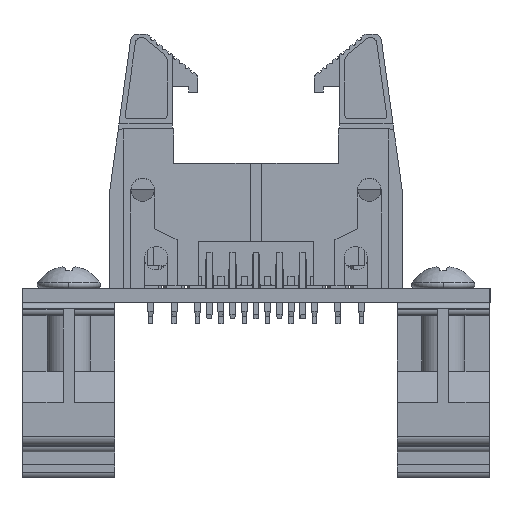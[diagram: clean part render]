
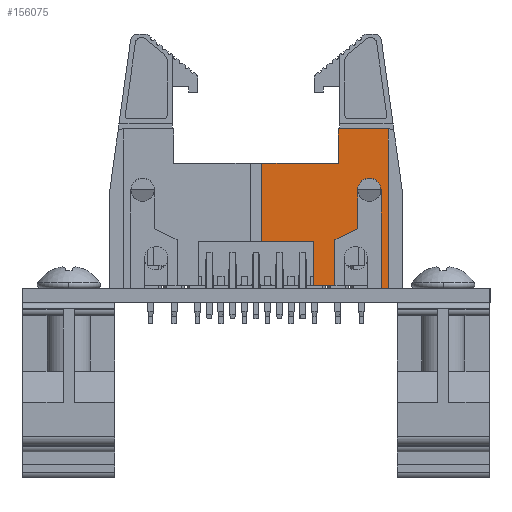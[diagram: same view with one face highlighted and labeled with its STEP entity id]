
A CAD part, left-side view. The second image highlights one B-rep face of the part: STEP entity #156075.
In plain terms, the highlighted planar face has unit normal (-1, 0, 0) as drawn and (0, -1, 0) by its records, which use the part's own axes.
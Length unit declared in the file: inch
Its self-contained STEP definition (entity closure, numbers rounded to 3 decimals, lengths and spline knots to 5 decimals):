
#2405 = DIRECTION ( 'NONE',  ( 0.899, 0., 0.438 ) ) ;
#5420 = DIRECTION ( 'NONE',  ( 0., -1., 0. ) ) ;
#6773 = DIRECTION ( 'NONE',  ( 0., 0., 1. ) ) ;
#7872 = VERTEX_POINT ( 'NONE', #68327 ) ;
#8047 = VERTEX_POINT ( 'NONE', #185740 ) ;
#8978 = VERTEX_POINT ( 'NONE', #96373 ) ;
#9741 = VERTEX_POINT ( 'NONE', #53416 ) ;
#10768 = CARTESIAN_POINT ( 'NONE',  ( -0.53425, -0.15748, 0. ) ) ;
#11403 = DIRECTION ( 'NONE',  ( 0., 0., 1. ) ) ;
#13003 = AXIS2_PLACEMENT_3D ( 'NONE', #80421, #97122, #11403 ) ;
#13088 = EDGE_CURVE ( 'NONE', #221510, #45523, #211973, .T. ) ;
#25902 = CIRCLE ( 'NONE', #132756, 0.05 ) ;
#27781 = LINE ( 'NONE', #47961, #109231 ) ;
#29120 = CARTESIAN_POINT ( 'NONE',  ( -0.24606, -0.15748, -0.18898 ) ) ;
#36196 = LINE ( 'NONE', #215650, #180229 ) ;
#36593 = EDGE_CURVE ( 'NONE', #75964, #121569, #101867, .T. ) ;
#39319 = DIRECTION ( 'NONE',  ( 0., 0., 1. ) ) ;
#39373 = ORIENTED_EDGE ( 'NONE', *, *, #180999, .T. ) ;
#40513 = EDGE_CURVE ( 'NONE', #45523, #8047, #25902, .T. ) ;
#43444 = ORIENTED_EDGE ( 'NONE', *, *, #40513, .F. ) ;
#44669 = LINE ( 'NONE', #160035, #131473 ) ;
#45523 = VERTEX_POINT ( 'NONE', #151100 ) ;
#45674 = CARTESIAN_POINT ( 'NONE',  ( -0.35236, -0.15748, 0. ) ) ;
#47961 = CARTESIAN_POINT ( 'NONE',  ( 0., -0.15748, -0.18898 ) ) ;
#48474 = CARTESIAN_POINT ( 'NONE',  ( -0.53425, -0.15748, 0.01181 ) ) ;
#51281 = VECTOR ( 'NONE', #184020, 39.37008 ) ;
#53416 = CARTESIAN_POINT ( 'NONE',  ( -0.56496, -0.15748, -0.66969 ) ) ;
#53652 = CARTESIAN_POINT ( 'NONE',  ( 0., -0.15748, -0.52362 ) ) ;
#54314 = ORIENTED_EDGE ( 'NONE', *, *, #201904, .F. ) ;
#55025 = EDGE_CURVE ( 'NONE', #121569, #123124, #144567, .T. ) ;
#56217 = LINE ( 'NONE', #159220, #121226 ) ;
#57313 = CARTESIAN_POINT ( 'NONE',  ( -0.35236, -0.15748, -0.66969 ) ) ;
#57695 = CARTESIAN_POINT ( 'NONE',  ( -0.43425, -0.15748, 0. ) ) ;
#58864 = EDGE_CURVE ( 'NONE', #155076, #221510, #36196, .T. ) ;
#60074 = CARTESIAN_POINT ( 'NONE',  ( -0.35236, -0.15748, -0.52362 ) ) ;
#60382 = CARTESIAN_POINT ( 'NONE',  ( -0.0252, -0.15748, -0.18898 ) ) ;
#60544 = EDGE_CURVE ( 'NONE', #144538, #139131, #143557, .T. ) ;
#65960 = CARTESIAN_POINT ( 'NONE',  ( -0.0252, -0.15748, -0.52362 ) ) ;
#68063 = DIRECTION ( 'NONE',  ( -1., 0., 0. ) ) ;
#68327 = CARTESIAN_POINT ( 'NONE',  ( -0.43425, -0.15748, -0.24409 ) ) ;
#69610 = ORIENTED_EDGE ( 'NONE', *, *, #58864, .F. ) ;
#71017 = ORIENTED_EDGE ( 'NONE', *, *, #36593, .F. ) ;
#75964 = VERTEX_POINT ( 'NONE', #60382 ) ;
#76054 = VERTEX_POINT ( 'NONE', #29120 ) ;
#76963 = ORIENTED_EDGE ( 'NONE', *, *, #109135, .F. ) ;
#78807 = VECTOR ( 'NONE', #79047, 39.37008 ) ;
#79047 = DIRECTION ( 'NONE',  ( 0., 0., -1. ) ) ;
#79837 = EDGE_CURVE ( 'NONE', #123124, #177098, #183913, .T. ) ;
#80421 = CARTESIAN_POINT ( 'NONE',  ( 0., -0.15748, 0. ) ) ;
#82809 = EDGE_CURVE ( 'NONE', #76054, #75964, #27781, .T. ) ;
#87134 = ORIENTED_EDGE ( 'NONE', *, *, #108487, .F. ) ;
#96373 = CARTESIAN_POINT ( 'NONE',  ( -0.3374, -0.15748, -0.19685 ) ) ;
#97122 = DIRECTION ( 'NONE',  ( 0., 1., 0. ) ) ;
#101867 = LINE ( 'NONE', #202022, #210623 ) ;
#103151 = CARTESIAN_POINT ( 'NONE',  ( -0.62795, -0.15748, 0. ) ) ;
#106720 = CARTESIAN_POINT ( 'NONE',  ( -0.24606, -0.15748, 0. ) ) ;
#108487 = EDGE_CURVE ( 'NONE', #8978, #144538, #205772, .T. ) ;
#109135 = EDGE_CURVE ( 'NONE', #177098, #9741, #56217, .T. ) ;
#109231 = VECTOR ( 'NONE', #152573, 39.37008 ) ;
#121226 = VECTOR ( 'NONE', #211597, 39.37008 ) ;
#121569 = VERTEX_POINT ( 'NONE', #65960 ) ;
#123124 = VERTEX_POINT ( 'NONE', #60074 ) ;
#124666 = VECTOR ( 'NONE', #223936, 39.37008 ) ;
#125844 = ORIENTED_EDGE ( 'NONE', *, *, #13088, .F. ) ;
#126775 = DIRECTION ( 'NONE',  ( 0., 0., 1. ) ) ;
#127541 = VECTOR ( 'NONE', #2405, 39.37008 ) ;
#129357 = ORIENTED_EDGE ( 'NONE', *, *, #188672, .F. ) ;
#130111 = CARTESIAN_POINT ( 'NONE',  ( -0.24606, -0.15748, 0. ) ) ;
#131473 = VECTOR ( 'NONE', #39319, 39.37008 ) ;
#132243 = CARTESIAN_POINT ( 'NONE',  ( -0.56496, -0.15748, 0.01181 ) ) ;
#132756 = AXIS2_PLACEMENT_3D ( 'NONE', #145672, #5420, #126775 ) ;
#133244 = VECTOR ( 'NONE', #6773, 39.37008 ) ;
#139131 = VERTEX_POINT ( 'NONE', #106720 ) ;
#141159 = CARTESIAN_POINT ( 'NONE',  ( -0.43425, -0.15748, -0.24409 ) ) ;
#143269 = ORIENTED_EDGE ( 'NONE', *, *, #155313, .F. ) ;
#143557 = LINE ( 'NONE', #103151, #124666 ) ;
#144538 = VERTEX_POINT ( 'NONE', #201923 ) ;
#144567 = LINE ( 'NONE', #53652, #152618 ) ;
#145672 = CARTESIAN_POINT ( 'NONE',  ( -0.48425, -0.15748, -0.40945 ) ) ;
#147380 = ORIENTED_EDGE ( 'NONE', *, *, #82809, .F. ) ;
#151100 = CARTESIAN_POINT ( 'NONE',  ( -0.53425, -0.15748, -0.40945 ) ) ;
#152573 = DIRECTION ( 'NONE',  ( 1., 0., 0. ) ) ;
#152618 = VECTOR ( 'NONE', #68063, 39.37008 ) ;
#155076 = VERTEX_POINT ( 'NONE', #132243 ) ;
#155313 = EDGE_CURVE ( 'NONE', #9741, #155076, #44669, .T. ) ;
#156075 = ADVANCED_FACE ( 'NONE', ( #212410 ), #201173, .F. ) ;
#159220 = CARTESIAN_POINT ( 'NONE',  ( 0., -0.15748, -0.66969 ) ) ;
#160035 = CARTESIAN_POINT ( 'NONE',  ( -0.56496, -0.15748, 0. ) ) ;
#162523 = LINE ( 'NONE', #130111, #51281 ) ;
#163482 = EDGE_LOOP ( 'NONE', ( #194949, #71017, #147380, #39373, #205847, #87134, #129357, #54314, #43444, #125844, #69610, #143269, #76963, #180885 ) ) ;
#165969 = LINE ( 'NONE', #141159, #127541 ) ;
#167114 = DIRECTION ( 'NONE',  ( 0., 0., -1. ) ) ;
#175896 = VECTOR ( 'NONE', #196380, 39.37008 ) ;
#177098 = VERTEX_POINT ( 'NONE', #57313 ) ;
#179629 = CARTESIAN_POINT ( 'NONE',  ( -0.3374, -0.15748, 0. ) ) ;
#180229 = VECTOR ( 'NONE', #181468, 39.37008 ) ;
#180885 = ORIENTED_EDGE ( 'NONE', *, *, #79837, .F. ) ;
#180999 = EDGE_CURVE ( 'NONE', #76054, #139131, #162523, .T. ) ;
#181468 = DIRECTION ( 'NONE',  ( 1., 0., 0. ) ) ;
#182124 = LINE ( 'NONE', #57695, #133244 ) ;
#183913 = LINE ( 'NONE', #45674, #205744 ) ;
#184020 = DIRECTION ( 'NONE',  ( 0., 0., 1. ) ) ;
#185740 = CARTESIAN_POINT ( 'NONE',  ( -0.43425, -0.15748, -0.40945 ) ) ;
#188672 = EDGE_CURVE ( 'NONE', #7872, #8978, #165969, .T. ) ;
#194949 = ORIENTED_EDGE ( 'NONE', *, *, #55025, .F. ) ;
#196380 = DIRECTION ( 'NONE',  ( 0., 0., 1. ) ) ;
#201173 = PLANE ( 'NONE',  #13003 ) ;
#201904 = EDGE_CURVE ( 'NONE', #8047, #7872, #182124, .T. ) ;
#201923 = CARTESIAN_POINT ( 'NONE',  ( -0.3374, -0.15748, 0. ) ) ;
#202022 = CARTESIAN_POINT ( 'NONE',  ( -0.0252, -0.15748, 0. ) ) ;
#205744 = VECTOR ( 'NONE', #167114, 39.37008 ) ;
#205772 = LINE ( 'NONE', #179629, #175896 ) ;
#205847 = ORIENTED_EDGE ( 'NONE', *, *, #60544, .F. ) ;
#210623 = VECTOR ( 'NONE', #217282, 39.37008 ) ;
#211597 = DIRECTION ( 'NONE',  ( -1., 0., 0. ) ) ;
#211973 = LINE ( 'NONE', #10768, #78807 ) ;
#212410 = FACE_OUTER_BOUND ( 'NONE', #163482, .T. ) ;
#215650 = CARTESIAN_POINT ( 'NONE',  ( 0., -0.15748, 0.01181 ) ) ;
#217282 = DIRECTION ( 'NONE',  ( 0., 0., -1. ) ) ;
#221510 = VERTEX_POINT ( 'NONE', #48474 ) ;
#223936 = DIRECTION ( 'NONE',  ( 1., 0., 0. ) ) ;
